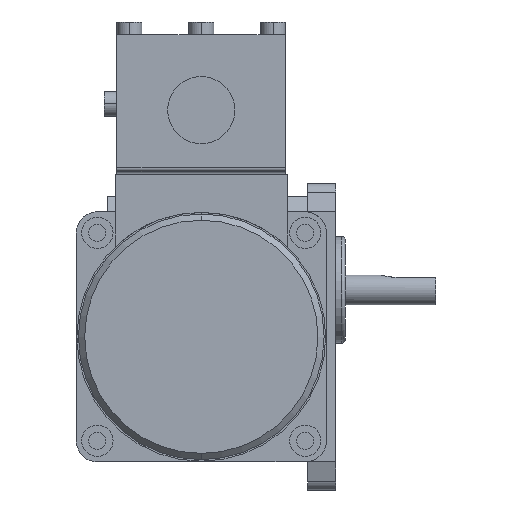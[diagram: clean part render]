
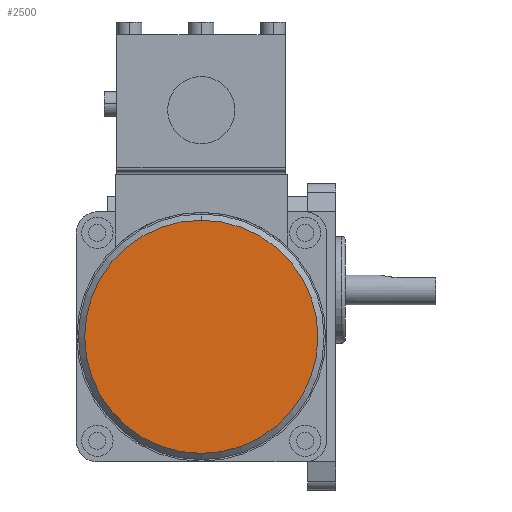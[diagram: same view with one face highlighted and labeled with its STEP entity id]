
A CAD part, left-side view. The second image highlights one B-rep face of the part: STEP entity #2500.
In plain terms, the highlighted planar face has unit normal (-1, 0, 0).
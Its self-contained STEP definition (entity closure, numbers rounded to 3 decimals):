
#2480=CARTESIAN_POINT('POINT91074',(-146.,43.,22.3));
#2481=VERTEX_POINT('VERTEX91074',#2480);
#2482=CARTESIAN_POINT('POINT91075',(-146.,43.,-52.3));
#2483=VERTEX_POINT('VERTEX91075',#2482);
#2484=CARTESIAN_POINT('POS155168',(-146.,43.,-15.));
#2485=DIRECTION('DIR238783',(1.,0.,0.));
#2486=DIRECTION('DIR238784',(0.,0.,1.));
#2487=AXIS2_PLACEMENT_3D('AXIS83616',#2484,#2485,#2486);
#2488=CIRCLE('ELLIPSE40442',#2487,37.3);
#2489=EDGE_CURVE('EDGE139632',#2481,#2483,#2488,.T.);
#2490=ORIENTED_EDGE('COEDGE279275',*,*,#2489,.F.);
#2491=EDGE_CURVE('EDGE139633',#2483,#2481,#2488,.T.);
#2492=ORIENTED_EDGE('COEDGE279276',*,*,#2491,.F.);
#2493=EDGE_LOOP('NONE',(#2490,#2492));
#2494=FACE_BOUND('LOOP1',#2493,.T.);
#2495=CARTESIAN_POINT('POS155169',(-146.,43.,
   3.65));
#2496=DIRECTION('DIR238785',(-1.,0.,0.));
#2497=DIRECTION('DIR238786',(0.,1.,0.));
#2498=AXIS2_PLACEMENT_3D('AXIS83617',#2495,#2496,#2497);
#2499=PLANE('PLANE24280',#2498);
#2500=ADVANCED_FACE('FACE59189',(#2494),#2499,.T.);
